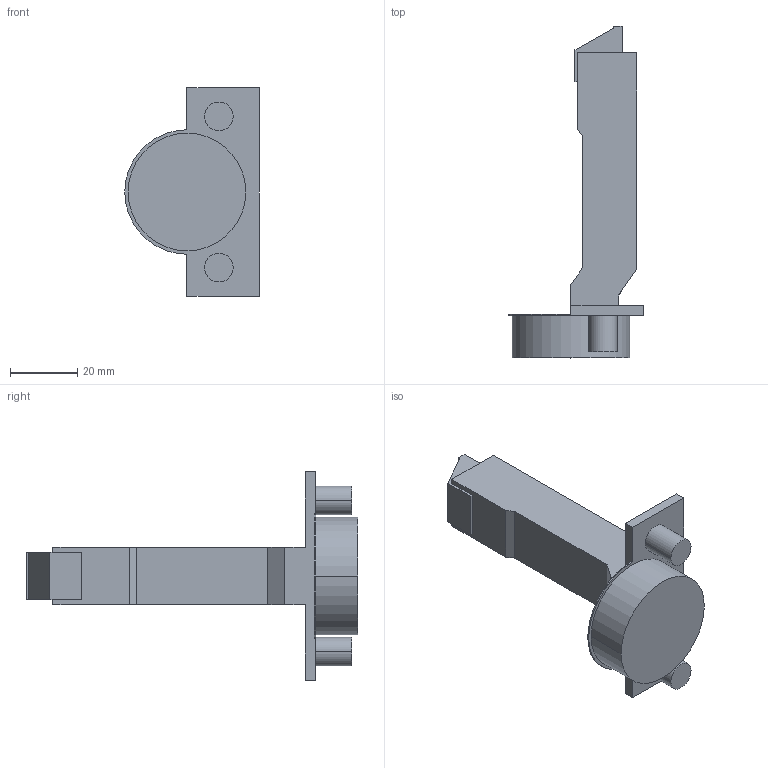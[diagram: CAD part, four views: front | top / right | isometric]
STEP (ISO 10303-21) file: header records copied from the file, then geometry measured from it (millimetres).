
FILE_DESCRIPTION (( 'STEP AP214' ), '1' );
FILE_NAME ('Scharnier T Click-on 95° B_BB, K00_Dübel.step', '2018-10-02T12:11:37', ( '' ), ( '' ), 'SwSTEP 2.0', 'SolidWorks 2017', '' );
FILE_SCHEMA (( 'AUTOMOTIVE_DESIGN' ));
Length unit declared in the file: millimetre
Products named in the file (1): Scharnier T Click-on 95° B_BB, K00_Dübel
Bounding box: 40 x 98.7 x 62 mm (x, y, z)
Volume: 39315.8 mm3; surface area: 11816.6 mm2
Topology: 1 solids, 1 shells, 52 faces, 126 edges, 84 vertices
Faces by surface type: plane 35, cylinder 17
Entity records: 1558 total; most frequent: DIRECTION 266, CARTESIAN_POINT 263, ORIENTED_EDGE 252, EDGE_CURVE 126, VECTOR 92, LINE 92, AXIS2_PLACEMENT_3D 87, VERTEX_POINT 84
